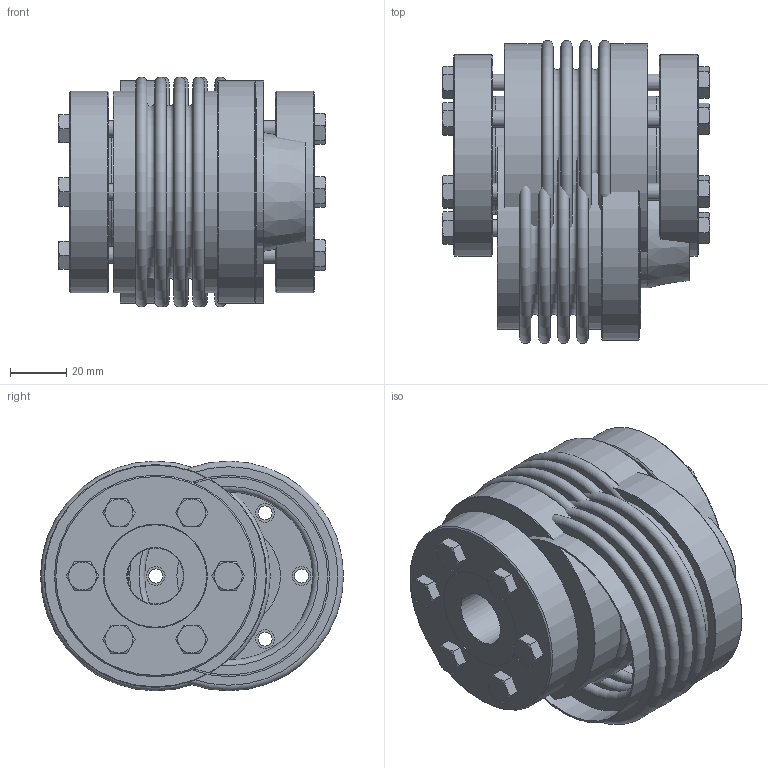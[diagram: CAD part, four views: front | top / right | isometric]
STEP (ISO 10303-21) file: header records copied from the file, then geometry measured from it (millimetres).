
FILE_DESCRIPTION( ( 'Unknown' ), '1' );
FILE_NAME( 'C:/Dokumente und Einstellungen/Sven/Desktop/homepage/cad - homepage/KB6/KB6-80-95.stp', 'Unknown', ( 'Unknown' ), ( 'Unknown' ), 'XStep 1.0', 'Unknown', ' ' );
FILE_SCHEMA( ( 'automotive_design' ) );
Length unit declared in the file: millimetre
Products named in the file (5): Assem1; Hex Screw GradeC_DIN_ISO 4018 - M6 x 30-NN_4; BK80-150_Standard_0; BA80-150_Standard_2; DR80-150_Standard_2
Bounding box: 95.4 x 108.18 x 82 mm (x, y, z)
Volume: 388827.6 mm3; surface area: 192549.6 mm2
Topology: 21 solids, 21 shells, 383 faces, 789 edges, 496 vertices
Faces by surface type: plane 168, cone 118, cylinder 69, torus 28
Full cylindrical faces by diameter (mm): 5 x18, 6 x13, 6.6 x18, 20 x3, 42.29 x3, 70.7 x4, 71.9 x4, 72 x3, 79.5 x3
Entity records: 2396 total; most frequent: DIRECTION 388, CARTESIAN_POINT 347, ORIENTED_EDGE 222, AXIS2_PLACEMENT_3D 188, EDGE_LOOP 176, FACE_OUTER_BOUND 118, EDGE_CURVE 111, VERTEX_POINT 99
